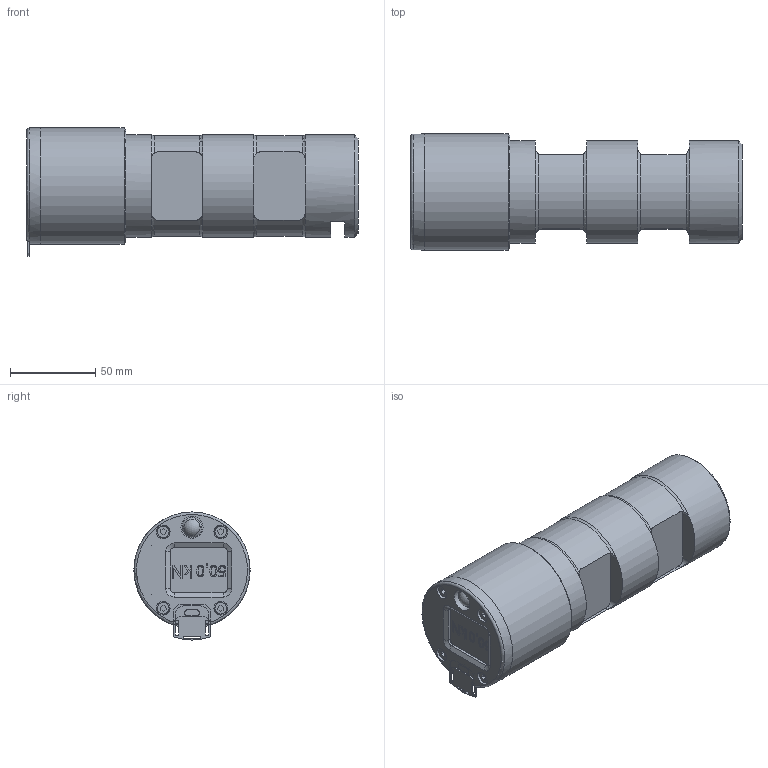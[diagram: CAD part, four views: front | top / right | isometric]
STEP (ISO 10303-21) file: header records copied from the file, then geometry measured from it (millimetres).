
FILE_DESCRIPTION(/* description */ ('Alibre Inc.'),/* implementation_level */ '2;1');
FILE_NAME(/* name */ 'export-068255F2-938E-44D1-AA08-9AF53B3A2036',/* time_stamp */ '2020-01-31T13:19:57+01:00',/* author */ (''),/* organization */ (''),/* preprocessor_version */ 'ST-DEVELOPER v17',/* originating_system */ 'Alibre',/* authorisation */ '');
FILE_SCHEMA (('AUTOMOTIVE_DESIGN'));
Length unit declared in the file: centimetre
Products named in the file (11): DIN 915 - d M3 x l 8 - 45H
Bounding box: 194.4 x 68 x 74.95 mm (x, y, z)
Volume: 429172.8 mm3; surface area: 73458.6 mm2
Topology: 14 solids, 14 shells, 511 faces, 1247 edges, 802 vertices
Faces by surface type: plane 259, cylinder 168, bspline 41, cone 27, torus 15, sphere 1
Full cylindrical faces by diameter (mm): 1 x4, 2.459 x4, 3 x3, 3.242 x4, 4 x4, 4.2 x4, 7 x4, 7.188 x1, 8 x6, 9.4 x1, 9.6 x1, 11.6 x1, 13 x1, 60 x3, 68 x2
Entity records: 14301 total; most frequent: CARTESIAN_POINT 4178, ORIENTED_EDGE 2042, DIRECTION 1744, EDGE_CURVE 1021, VERTEX_POINT 694, AXIS2_PLACEMENT_3D 684, VECTOR 600, LINE 600
